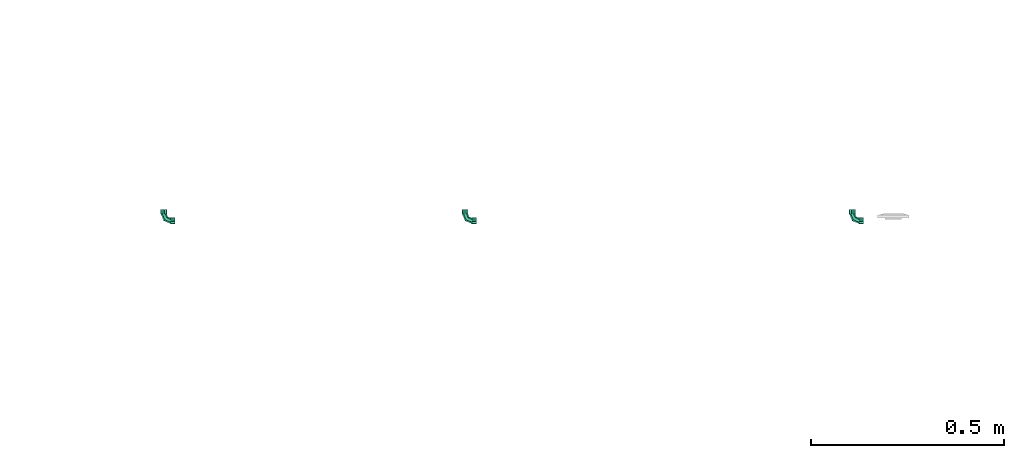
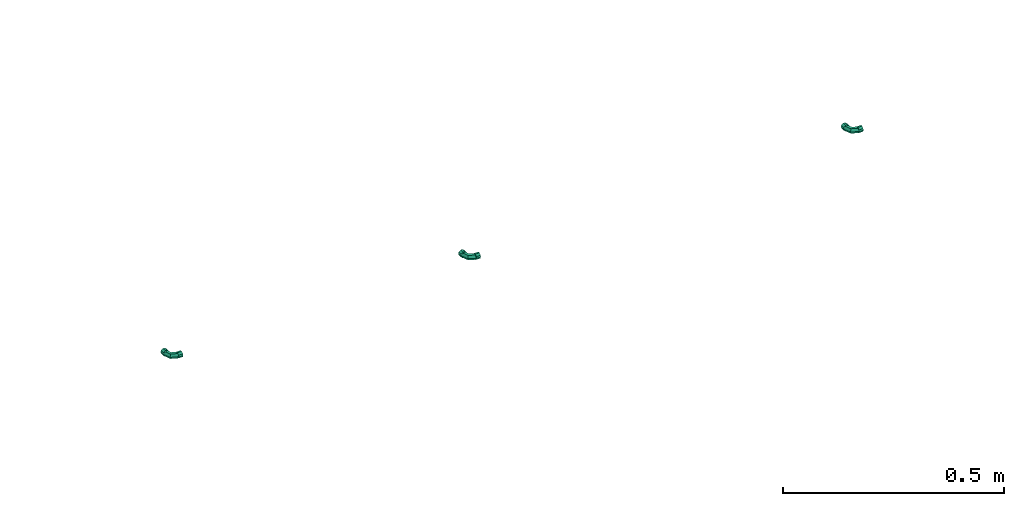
# One storey, part 146 of 153: 3 flow fittings.
"""IFC2X3 building model written with IfcOpenShell, lengths in metres."""

from ifc_helpers import new_model, entity, si_unit, converted_unit, derived_unit, direction, frame, origin, place, context, subcontext, project, spatial, faceted_brep, source, transform, mapped, type_object, type_shapes, element, save


model = new_model("IFC2X3")

# Units and contexts
model_context = context("Model", 3, precision=1e-05, world=origin(), true_north=direction((6.12303176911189e-17, 1.0)))
body_context = subcontext(model_context, "Body", "Model", "MODEL_VIEW")
ifc_project = project(units=[si_unit("LENGTHUNIT", "METRE"), si_unit("AREAUNIT", "SQUARE_METRE"), si_unit("VOLUMEUNIT", "CUBIC_METRE"), converted_unit("PLANEANGLEUNIT", "DEGREE", entity("IfcRatioMeasure", 0.0174532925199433), si_unit("PLANEANGLEUNIT", "RADIAN"), dimensions=[0, 0, 0, 0, 0, 0, 0]), si_unit("MASSUNIT", "GRAM", prefix="KILO"), derived_unit("MASSDENSITYUNIT", [(si_unit("MASSUNIT", "GRAM", prefix="KILO"), 1), (si_unit("LENGTHUNIT", "METRE"), -3)]), si_unit("TIMEUNIT", "SECOND"), si_unit("FREQUENCYUNIT", "HERTZ"), si_unit("THERMODYNAMICTEMPERATUREUNIT", "DEGREE_CELSIUS"), derived_unit("THERMALTRANSMITTANCEUNIT", [(si_unit("MASSUNIT", "GRAM", prefix="KILO"), 1), (si_unit("THERMODYNAMICTEMPERATUREUNIT", "KELVIN"), -1), (si_unit("TIMEUNIT", "SECOND"), -3)]), derived_unit("VOLUMETRICFLOWRATEUNIT", [(si_unit("LENGTHUNIT", "METRE"), 3), (si_unit("TIMEUNIT", "SECOND"), -1)]), si_unit("ELECTRICCURRENTUNIT", "AMPERE"), si_unit("ELECTRICVOLTAGEUNIT", "VOLT"), si_unit("POWERUNIT", "WATT"), si_unit("FORCEUNIT", "NEWTON"), si_unit("ILLUMINANCEUNIT", "LUX"), si_unit("LUMINOUSFLUXUNIT", "LUMEN"), si_unit("LUMINOUSINTENSITYUNIT", "CANDELA"), derived_unit("USERDEFINED", [(si_unit("MASSUNIT", "GRAM", prefix="KILO"), -1), (si_unit("LENGTHUNIT", "METRE"), -2), (si_unit("TIMEUNIT", "SECOND"), 3), (si_unit("LUMINOUSFLUXUNIT", "LUMEN"), 1)]), derived_unit("LINEARVELOCITYUNIT", [(si_unit("LENGTHUNIT", "METRE"), 1), (si_unit("TIMEUNIT", "SECOND"), -1)]), si_unit("PRESSUREUNIT", "PASCAL"), derived_unit("USERDEFINED", [(si_unit("LENGTHUNIT", "METRE"), -2), (si_unit("MASSUNIT", "GRAM", prefix="KILO"), 1), (si_unit("TIMEUNIT", "SECOND"), -2)])], contexts=[model_context])

# Site, building, storey
site_placement = place(None, origin())
site = spatial("IfcSite", under=ifc_project, at=site_placement, Name="Default", CompositionType="ELEMENT")
building_placement = place(site_placement, origin())
building = spatial("IfcBuilding", under=site, at=building_placement, CompositionType="ELEMENT")
storey_placement = place(building_placement, frame((0.0, 0.0, -4.62)))
storey = spatial("IfcBuildingStorey", under=building, at=storey_placement, Name="S02", CompositionType="ELEMENT", Elevation=-4.62)

# Flow fittings
pipe_fitting_type = type_object("IfcPipeFittingType", Name="M_Bend_Circular_MEPcontent_Cuivre_2M", PredefinedType="BEND")
shared_shape = source(origin(), body_context, "Body", "Brep", [
    faceted_brep([(-0.00749999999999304, 0.0172000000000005, 0.0), (-0.00187499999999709, 0.017200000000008, -0.00324759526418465), (0.00374999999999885, 0.0172000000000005, -0.00649519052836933), (0.00750000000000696, 0.0172000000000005, 0.0), (0.00187500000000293, 0.0171999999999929, 0.00324759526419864), (-0.0037500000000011, 0.0172000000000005, 0.00649519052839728), (0.00824999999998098, 0.018, 0.0), (0.00206249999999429, 0.0180000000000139, -0.00357235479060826), (-0.00412499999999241, 0.018, -0.00714470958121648), (-0.00825000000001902, 0.018, 0.0), (-0.0020625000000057, 0.0179999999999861, 0.00357235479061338), (0.00412500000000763, 0.018, 0.00714470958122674)], [[[0, 1, 2, 3, 4, 5]], [[6, 7, 8, 9, 10, 11]], [[1, 7, 2]], [[2, 6, 3]], [[7, 6, 2]], [[7, 1, 8]], [[8, 0, 9]], [[1, 0, 8]], [[4, 10, 5]], [[5, 9, 0]], [[10, 9, 5]], [[10, 4, 11]], [[11, 3, 6]], [[4, 3, 11]]]),
    faceted_brep([(-0.0021352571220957, 0.029, -0.00796888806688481), (-0.00194114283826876, 0.029, -0.00724444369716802), (0.00194114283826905, 0.029, -0.00724444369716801), (-0.0071447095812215, 0.029, -0.00412499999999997), (0.00213525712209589, 0.029, -0.00796888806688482), (-0.00649519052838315, 0.029, -0.00375000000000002), (-0.00749999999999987, 0.029, 0.0), (-0.00824999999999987, 0.029, 0.0), (-0.00649519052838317, 0.029, 0.00374999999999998), (-0.00714470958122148, 0.029, 0.00412500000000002), (-0.0019411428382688, 0.029, 0.007244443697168), (-0.00213525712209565, 0.029, 0.00796888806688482), (0.001941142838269, 0.029, 0.00724444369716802), (0.00213525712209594, 0.029, 0.00796888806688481), (0.0064951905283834, 0.029, 0.00375000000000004), (0.00714470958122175, 0.029, 0.004125), (0.00825000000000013, 0.029, 0.0), (0.00750000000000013, 0.029, 0.0), (0.00714470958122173, 0.029, -0.00412500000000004), (0.00649519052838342, 0.029, -0.00375), (-0.00213525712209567, 0.018, 0.00796888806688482), (-0.00194114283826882, 0.018, 0.007244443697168), (0.00194114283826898, 0.018, 0.00724444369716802), (-0.0071447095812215, 0.018, 0.00412500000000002), (0.00213525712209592, 0.018, 0.00796888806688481), (-0.00649519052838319, 0.018, 0.00374999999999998), (-0.00749999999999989, 0.018, 0.0), (-0.00824999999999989, 0.018, 0.0), (-0.00649519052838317, 0.018, -0.00375000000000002), (-0.00714470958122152, 0.018, -0.00412499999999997), (-0.00194114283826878, 0.018, -0.00724444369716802), (-0.00213525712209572, 0.018, -0.00796888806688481), (0.00194114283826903, 0.018, -0.00724444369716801), (0.00213525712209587, 0.018, -0.00796888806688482), (0.0064951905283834, 0.018, -0.00375), (0.00714470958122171, 0.018, -0.00412500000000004), (0.00825000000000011, 0.018, 0.0), (0.00750000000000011, 0.018, 0.0), (0.00714470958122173, 0.018, 0.004125), (0.00649519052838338, 0.018, 0.00375000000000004)], [[[0, 1, 2]], [[1, 0, 3]], [[2, 4, 0]], [[3, 5, 1]], [[3, 6, 5]], [[6, 3, 7]], [[8, 6, 7]], [[8, 7, 9]], [[9, 10, 8]], [[9, 11, 10]], [[10, 11, 12]], [[13, 12, 11]], [[13, 14, 12]], [[14, 13, 15]], [[16, 14, 15]], [[17, 14, 16]], [[18, 17, 16]], [[18, 19, 17]], [[19, 18, 4]], [[4, 2, 19]], [[20, 21, 22]], [[21, 20, 23]], [[22, 24, 20]], [[23, 25, 21]], [[23, 26, 25]], [[26, 23, 27]], [[28, 26, 27]], [[28, 27, 29]], [[29, 30, 28]], [[29, 31, 30]], [[30, 31, 32]], [[33, 32, 31]], [[33, 34, 32]], [[34, 33, 35]], [[36, 34, 35]], [[37, 34, 36]], [[38, 37, 36]], [[38, 39, 37]], [[39, 38, 24]], [[24, 22, 39]], [[25, 26, 6, 8]], [[21, 25, 8, 10]], [[10, 12, 22, 21]], [[39, 22, 12, 14]], [[37, 39, 14, 17]], [[34, 37, 17, 19]], [[32, 34, 19, 2]], [[2, 1, 30, 32]], [[28, 30, 1, 5]], [[26, 28, 5, 6]], [[27, 7, 3, 29]], [[29, 3, 0, 31]], [[0, 4, 33, 31]], [[33, 4, 18, 35]], [[35, 18, 16, 36]], [[36, 16, 15, 38]], [[38, 15, 13, 24]], [[13, 11, 20, 24]], [[20, 11, 9, 23]], [[23, 9, 7, 27]]]),
    faceted_brep([(-0.0172000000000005, -0.00749999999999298, 0.0), (-0.0172000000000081, -0.00187499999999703, -0.00324759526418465), (-0.0172000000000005, 0.00374999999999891, -0.00649519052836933), (-0.0172000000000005, 0.00750000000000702, 0.0), (-0.0171999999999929, 0.00187500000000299, 0.00324759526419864), (-0.0172000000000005, -0.00375000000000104, 0.00649519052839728), (-0.018, 0.00824999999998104, 0.0), (-0.0180000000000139, 0.00206249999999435, -0.00357235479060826), (-0.018, -0.00412499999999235, -0.00714470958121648), (-0.018, -0.00825000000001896, 0.0), (-0.0179999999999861, -0.00206250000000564, 0.00357235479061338), (-0.018, 0.00412500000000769, 0.00714470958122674)], [[[0, 1, 2, 3, 4, 5]], [[6, 7, 8, 9, 10, 11]], [[1, 7, 2]], [[2, 6, 3]], [[7, 6, 2]], [[7, 1, 8]], [[8, 0, 9]], [[1, 0, 8]], [[4, 10, 5]], [[5, 9, 0]], [[10, 9, 5]], [[10, 4, 11]], [[11, 3, 6]], [[4, 3, 11]]]),
    faceted_brep([(-0.029, -0.00213525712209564, -0.00796888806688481), (-0.029, -0.0019411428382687, -0.00724444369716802), (-0.029, 0.00194114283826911, -0.00724444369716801), (-0.029, -0.00714470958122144, -0.00412499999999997), (-0.029, 0.00213525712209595, -0.00796888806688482), (-0.029, -0.00649519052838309, -0.00375000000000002), (-0.029, -0.00749999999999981, 0.0), (-0.029, -0.00824999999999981, 0.0), (-0.029, -0.00649519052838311, 0.00374999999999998), (-0.029, -0.00714470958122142, 0.00412500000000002), (-0.029, -0.00194114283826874, 0.007244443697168), (-0.029, -0.00213525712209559, 0.00796888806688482), (-0.029, 0.00194114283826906, 0.00724444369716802), (-0.029, 0.002135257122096, 0.00796888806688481), (-0.029, 0.00649519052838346, 0.00375000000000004), (-0.029, 0.00714470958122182, 0.004125), (-0.029, 0.00825000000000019, 0.0), (-0.029, 0.00750000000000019, 0.0), (-0.029, 0.00714470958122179, -0.00412500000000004), (-0.029, 0.00649519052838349, -0.00375), (-0.018, -0.00213525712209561, 0.00796888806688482), (-0.018, -0.00194114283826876, 0.007244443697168), (-0.018, 0.00194114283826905, 0.00724444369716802), (-0.018, -0.00714470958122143, 0.00412500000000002), (-0.018, 0.00213525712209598, 0.00796888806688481), (-0.018, -0.00649519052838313, 0.00374999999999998), (-0.018, -0.00749999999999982, 0.0), (-0.018, -0.00824999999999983, 0.0), (-0.018, -0.0064951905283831, -0.00375000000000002), (-0.018, -0.00714470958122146, -0.00412499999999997), (-0.018, -0.00194114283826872, -0.00724444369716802), (-0.018, -0.00213525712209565, -0.00796888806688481), (-0.018, 0.00194114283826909, -0.00724444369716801), (-0.018, 0.00213525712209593, -0.00796888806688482), (-0.018, 0.00649519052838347, -0.00375), (-0.018, 0.00714470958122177, -0.00412500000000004), (-0.018, 0.00825000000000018, 0.0), (-0.018, 0.00750000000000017, 0.0), (-0.018, 0.0071447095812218, 0.004125), (-0.018, 0.00649519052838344, 0.00375000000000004)], [[[0, 1, 2]], [[1, 0, 3]], [[2, 4, 0]], [[3, 5, 1]], [[3, 6, 5]], [[6, 3, 7]], [[8, 6, 7]], [[8, 7, 9]], [[9, 10, 8]], [[9, 11, 10]], [[10, 11, 12]], [[13, 12, 11]], [[13, 14, 12]], [[14, 13, 15]], [[16, 14, 15]], [[17, 14, 16]], [[18, 17, 16]], [[18, 19, 17]], [[19, 18, 4]], [[4, 2, 19]], [[20, 21, 22]], [[21, 20, 23]], [[22, 24, 20]], [[23, 25, 21]], [[23, 26, 25]], [[26, 23, 27]], [[28, 26, 27]], [[28, 27, 29]], [[29, 30, 28]], [[29, 31, 30]], [[30, 31, 32]], [[33, 32, 31]], [[33, 34, 32]], [[34, 33, 35]], [[36, 34, 35]], [[37, 34, 36]], [[38, 37, 36]], [[38, 39, 37]], [[39, 38, 24]], [[24, 22, 39]], [[25, 26, 6, 8]], [[21, 25, 8, 10]], [[10, 12, 22, 21]], [[39, 22, 12, 14]], [[37, 39, 14, 17]], [[34, 37, 17, 19]], [[32, 34, 19, 2]], [[2, 1, 30, 32]], [[28, 30, 1, 5]], [[26, 28, 5, 6]], [[27, 7, 3, 29]], [[29, 3, 0, 31]], [[0, 4, 33, 31]], [[33, 4, 18, 35]], [[35, 18, 16, 36]], [[36, 16, 15, 38]], [[38, 15, 13, 24]], [[13, 11, 20, 24]], [[20, 11, 9, 23]], [[23, 9, 7, 27]]]),
    faceted_brep([(3.12229202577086e-05, -3.12229202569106e-05, 0.0), (-0.00262042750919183, 0.00262042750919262, 0.00649519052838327), (-0.0179999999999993, -0.00375000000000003, 0.00649519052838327), (-0.0179999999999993, -0.0075, 0.0), (-0.00792372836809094, 0.00792372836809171, 0.00649519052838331), (-0.0179999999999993, 0.00374999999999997, 0.00649519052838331), (-0.0105753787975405, 0.0105753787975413, 0.0), (-0.0179999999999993, 0.0075, 0.0), (-0.00792372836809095, 0.00792372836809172, -0.0064951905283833), (-0.0179999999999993, 0.00374999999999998, -0.0064951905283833), (-0.00262042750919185, 0.00262042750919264, -0.00649519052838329), (-0.0179999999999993, -0.00375, -0.00649519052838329), (0.00750000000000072, 0.0180000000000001, 0.0), (0.00375000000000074, 0.0180000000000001, 0.00649519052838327), (-0.00374999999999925, 0.0180000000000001, 0.00649519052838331), (-0.00749999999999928, 0.018, 0.0), (-0.00374999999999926, 0.0180000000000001, -0.0064951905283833), (0.00375000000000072, 0.0180000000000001, -0.00649519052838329)], [[[0, 1, 2, 3]], [[1, 4, 5, 2]], [[4, 6, 7, 5]], [[6, 8, 9, 7]], [[8, 10, 11, 9]], [[10, 0, 3, 11]], [[12, 13, 1, 0]], [[13, 14, 4, 1]], [[14, 15, 6, 4]], [[15, 16, 8, 6]], [[16, 17, 10, 8]], [[17, 12, 0, 10]], [[3, 2, 5, 7, 9, 11]], [[17, 16, 15, 14, 13, 12]]]),
])
type_shapes(pipe_fitting_type, [shared_shape])
for number, where, z_axis, x_axis in (
    (1, (48.2118792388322, -185.922610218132, 4.17117489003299), (0.0, 0.0, 1.0), (0.0, -1.0, 0.0)),
    (2, (46.4318792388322, -185.922610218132, 4.17117489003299), (0.0, 0.0, 1.0), (0.0, -1.0, 0.0)),
    (3, (47.2108792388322, -185.922610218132, 4.17117489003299), (0.0, 0.0, 1.0), (0.0, -1.0, 0.0)),
):
    element("IfcFlowFitting", number, at=place(storey_placement, frame(where, z_axis=z_axis, x_axis=x_axis)), inside=storey, type_object=pipe_fitting_type, Name="M_Bend_Circular_MEPcontent_Cuivre_2M:M_Bend_Circular_MEPcontent_Cuivre_2M", ObjectType="M_Bend_Circular_MEPcontent_Cuivre_2M:M_Bend_Circular_MEPcontent_Cuivre_2M", context=body_context, shape_type="MappedRepresentation", body=[
        mapped(shared_shape, transform((0.0, 0.0, 0.0), scale=1.0)),
    ])

save(model, "model.ifc")
